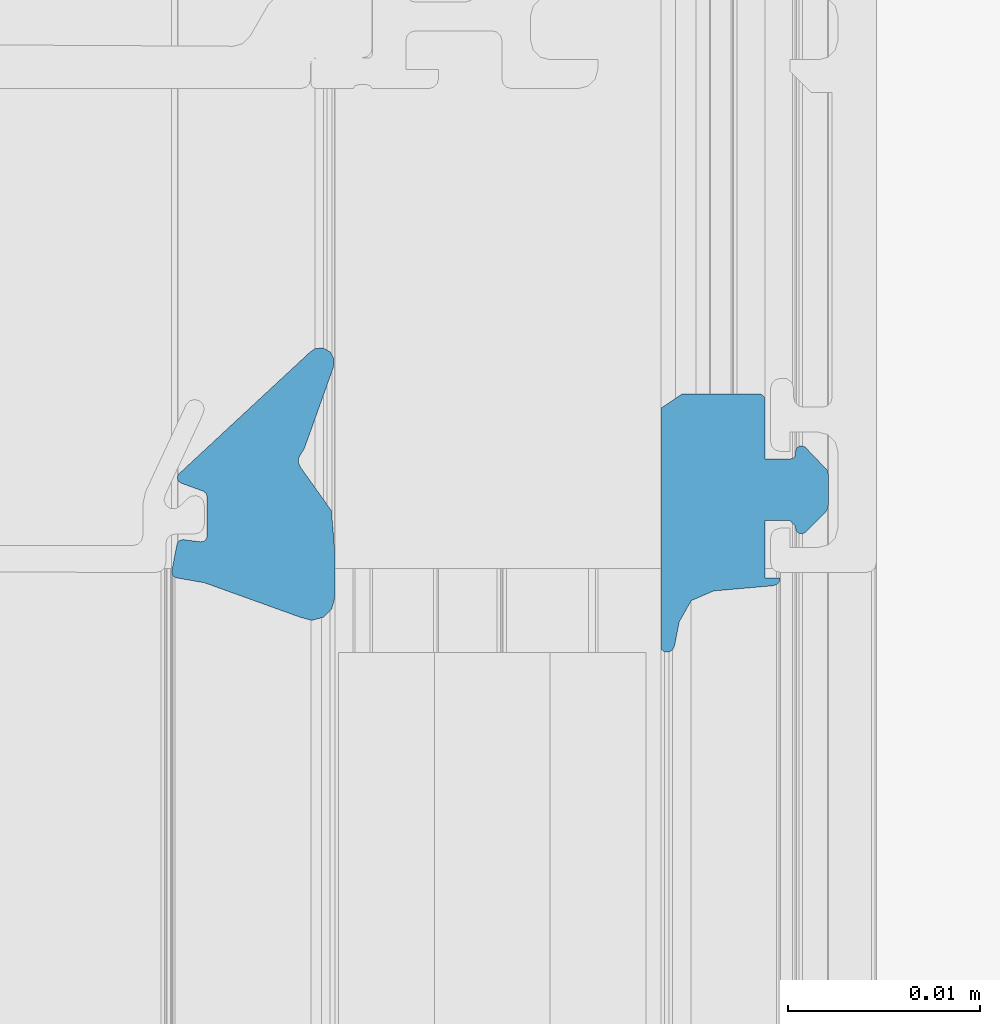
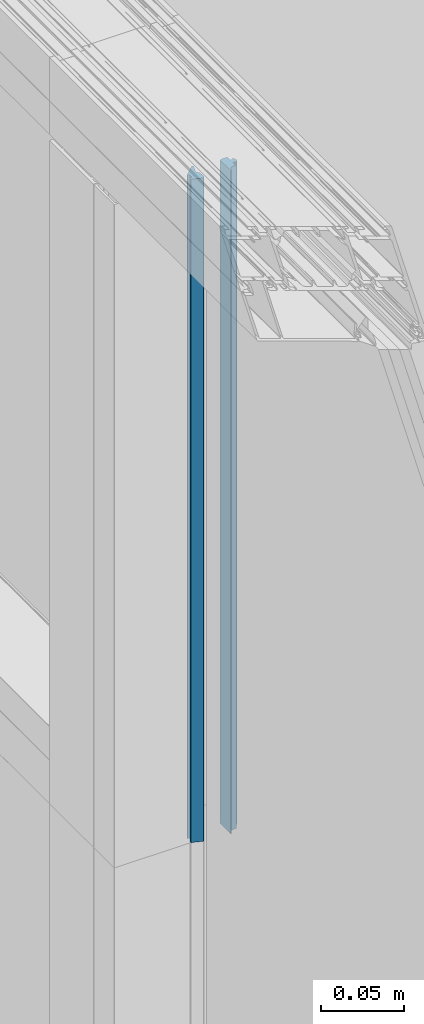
# One storey, part 50 of 62: 1 building element part, 2 elements without a shape of their own.
"""IFC2X3 building model written with IfcOpenShell, lengths in millimetres."""

from ifc_helpers import new_model, entity, si_unit, converted_unit, derived_unit, money_unit, direction, frame, origin_with_axes, place, context, subcontext, project, spatial, faceted_brep, material, type_object, element, aggregate, save


model = new_model("IFC2X3")

# Units and contexts
model_context = context("Model", 3, precision=0.01, world=origin_with_axes(), true_north=direction((0.0, 1.0)))
body_context = subcontext(model_context, "Body", "Model", "MODEL_VIEW")
ifc_project = project(units=[si_unit("LENGTHUNIT", "METRE", prefix="MILLI"), si_unit("AREAUNIT", "SQUARE_METRE"), si_unit("VOLUMEUNIT", "CUBIC_METRE"), converted_unit("PLANEANGLEUNIT", "DEGREE", entity("IfcPlaneAngleMeasure", 0.0174532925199), si_unit("PLANEANGLEUNIT", "RADIAN"), dimensions=[0, 0, 0, 0, 0, 0, 0]), si_unit("SOLIDANGLEUNIT", "STERADIAN"), money_unit("EUR"), converted_unit("TIMEUNIT", "Year", entity("IfcTimeMeasure", 31556926.0), si_unit("TIMEUNIT", "SECOND"), dimensions=[0, 0, 1, 0, 0, 0, 0]), si_unit("MASSUNIT", "GRAM", prefix="KILO"), si_unit("THERMODYNAMICTEMPERATUREUNIT", "DEGREE_CELSIUS"), si_unit("LUMINOUSINTENSITYUNIT", "LUMEN"), si_unit("ENERGYUNIT", "JOULE", prefix="MEGA"), derived_unit("THERMALCONDUCTANCEUNIT", [(si_unit("POWERUNIT", "WATT"), 1), (si_unit("LENGTHUNIT", "METRE"), -1), (si_unit("THERMODYNAMICTEMPERATUREUNIT", "KELVIN"), -1)]), derived_unit("SPECIFICHEATCAPACITYUNIT", [(si_unit("ENERGYUNIT", "JOULE"), 1), (si_unit("MASSUNIT", "GRAM", prefix="KILO"), -1), (si_unit("THERMODYNAMICTEMPERATUREUNIT", "KELVIN"), -1)]), derived_unit("MASSDENSITYUNIT", [(si_unit("MASSUNIT", "GRAM", prefix="KILO"), 1), (si_unit("VOLUMEUNIT", "CUBIC_METRE"), -1)])], contexts=[model_context])

# Site, building, storey
site_placement = place(None, origin_with_axes())
site = spatial("IfcSite", under=ifc_project, at=site_placement, Name="Puškini 31, Narva", CompositionType="ELEMENT")
building_placement = place(site_placement, origin_with_axes())
building = spatial("IfcBuilding", under=site, at=building_placement, Name="Narva Riigigümnaasium", CompositionType="ELEMENT")
storey_placement = place(building_placement, frame((0.0, 0.0, 660.0), z_axis=(0.0, 0.0, 1.0), x_axis=(1.0, 0.0, 0.0)))
storey = spatial("IfcBuildingStorey", under=building, at=storey_placement, Name="2.korrus +0.66", CompositionType="ELEMENT", Elevation=660.0)

# Curtain wall, member, building element part
curtain_wall_type = type_object("IfcCurtainWallType", Name="Curtain Wall Type", PredefinedType="NOTDEFINED")
curtain_wall_placement = place(storey_placement, frame((34855.0128096, 223200.000065, -2.45869393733e-05), z_axis=(0.0, 0.0, 1.0), x_axis=(1.0, 0.0, 0.0)))
curtain_wall = element("IfcCurtainWall", 1, at=curtain_wall_placement, inside=storey, type_object=curtain_wall_type, Name="G-SKLF-50")
member_type = type_object("IfcMemberType", Name="82 x 45", PredefinedType="MULLION")
member_placement = place(curtain_wall_placement, frame((-0.00257308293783, -599.999999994, 2400.00002459), z_axis=(0.0, 0.0, 1.0), x_axis=(4.28847155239e-06, 0.999999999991, 0.0)))
member = element("IfcMember", 2, at=member_placement, type_object=member_type, Name="G-SKLF-50-raam", ObjectType="MULLION")
aggregate(curtain_wall, [member])
ifc_material = material(Name="Membraan - Veekindel")
building_element_part_placement = place(member_placement, origin_with_axes())
building_element_part = element("IfcBuildingElementPart", 3, at=building_element_part_placement, material=ifc_material, Name="Membraan - Veekindel", context=body_context, shape_type="Brep", body=[
    faceted_brep([(-72.7204882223, -15.0100099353, 0.0), (-72.7204882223, -15.0100099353, 488.835293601), (-74.9898926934, -16.6230552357, 488.835293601), (-74.9898926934, -16.6230552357, 0.0), (-72.5011668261, -14.8999349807, 0.0), (-72.5011668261, -14.8999349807, 488.835293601), (-72.2558878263, -14.9074571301, 488.835293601), (-72.0437237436, -15.0307647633, 488.835293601), (-71.7536994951, -15.2121692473, 488.835293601), (-67.4982927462, -16.7341218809, 488.835293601), (-67.0740702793, -16.7580150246, 488.835293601), (-66.7049453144, -16.5475813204, 488.835293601), (-66.5093924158, -16.1703616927, 488.835293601), (-66.5501763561, -15.7474287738, 488.835293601), (-66.8142070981, -15.4145273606, 488.835293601), (-73.0645590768, -8.68581760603, 488.835293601), (-73.192689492, -8.61180126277, 488.835293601), (-73.3406152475, -8.60808734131, 488.835293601), (-73.4722984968, -8.67558063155, 488.835293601), (-73.5556584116, -8.79783833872, 488.835293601), (-73.9761212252, -9.95305042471, 488.835293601), (-74.0859560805, -10.096189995, 488.835293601), (-74.2580290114, -10.1504443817, 488.835293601), (-76.3123574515, -10.1504443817, 488.835293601), (-76.4731258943, -10.1037298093, 488.835293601), (-76.5838261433, -9.9781344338, 488.835293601), (-76.6099827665, -9.81277248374, 488.835293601), (-76.4957458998, -8.91024871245, 488.835293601), (-76.5142922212, -8.76250903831, 488.835293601), (-76.601588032, -8.64188392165, 488.835293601), (-76.7361285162, -8.57808865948, 488.835293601), (-78.1361285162, -8.30595622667, 488.835293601), (-78.2917480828, -8.3170330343, 488.835293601), (-78.4207620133, -8.4047573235, 488.835293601), (-78.4882789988, -8.54540440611, 488.835293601), (-78.7418652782, -10.0036443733, 488.835293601), (-80.5405112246, -15.001346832, 488.835293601), (-80.7012805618, -15.6006926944, 488.835293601), (-80.5411647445, -16.2002134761, 488.835293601), (-80.1029794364, -16.6395947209, 488.835293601), (-79.5038972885, -16.8013439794, 488.835293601), (-77.1927259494, -16.806401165, 488.835293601), (-77.1927259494, -16.806401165, 0.0), (-79.5038972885, -16.8013439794, 0.0), (-80.1029794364, -16.6395947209, 0.0), (-80.5411647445, -16.2002134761, 0.0), (-80.7012805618, -15.6006926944, 0.0), (-80.5405112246, -15.001346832, 0.0), (-78.7418652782, -10.0036443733, 0.0), (-78.4882789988, -8.54540440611, 0.0), (-78.4207620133, -8.4047573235, 0.0), (-78.2917480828, -8.3170330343, 0.0), (-78.1361285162, -8.30595622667, 0.0), (-76.7361285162, -8.57808865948, 0.0), (-76.601588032, -8.64188392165, 0.0), (-76.5142922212, -8.76250903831, 0.0), (-76.4957458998, -8.91024871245, 0.0), (-76.6099827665, -9.81277248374, 0.0), (-76.5838261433, -9.9781344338, 0.0), (-76.4731258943, -10.1037298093, 0.0), (-76.3123574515, -10.1504443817, 0.0), (-74.2580290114, -10.1504443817, 0.0), (-74.0859560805, -10.096189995, 0.0), (-73.9761212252, -9.95305042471, 0.0), (-73.5556584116, -8.79783833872, 0.0), (-73.4722984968, -8.67558063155, 0.0), (-73.3406152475, -8.60808734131, 0.0), (-73.192689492, -8.61180126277, 0.0), (-73.0645590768, -8.68581760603, 0.0), (-66.8142070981, -15.4145273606, 0.0), (-66.5501763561, -15.7474287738, 0.0), (-66.5093924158, -16.1703616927, 0.0), (-66.7049453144, -16.5475813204, 0.0), (-67.0740702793, -16.7580150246, 0.0), (-67.4982927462, -16.7341218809, 0.0), (-71.7536994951, -15.2121692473, 0.0), (-72.0437237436, -15.0307647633, 0.0), (-72.2558878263, -14.9074571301, 0.0)], [[[0, 1, 2, 3]], [[4, 5, 1, 0]], [[1, 5, 6, 7, 8, 9, 10, 11, 12, 13, 14, 15, 16, 17, 18, 19, 20, 21, 22, 23, 24, 25, 26, 27, 28, 29, 30, 31, 32, 33, 34, 35, 36, 37, 38, 39, 40, 41, 2]], [[3, 2, 41, 42]], [[0, 3, 42, 43, 44, 45, 46, 47, 48, 49, 50, 51, 52, 53, 54, 55, 56, 57, 58, 59, 60, 61, 62, 63, 64, 65, 66, 67, 68, 69, 70, 71, 72, 73, 74, 75, 76, 77, 4]], [[77, 6, 5, 4]], [[76, 7, 6, 77]], [[75, 8, 7, 76]], [[74, 9, 8, 75]], [[73, 10, 9, 74]], [[72, 11, 10, 73]], [[71, 12, 11, 72]], [[70, 13, 12, 71]], [[69, 14, 13, 70]], [[68, 15, 14, 69]], [[67, 16, 15, 68]], [[66, 17, 16, 67]], [[65, 18, 17, 66]], [[64, 19, 18, 65]], [[63, 20, 19, 64]], [[62, 21, 20, 63]], [[61, 22, 21, 62]], [[60, 23, 22, 61]], [[59, 24, 23, 60]], [[58, 25, 24, 59]], [[57, 26, 25, 58]], [[56, 27, 26, 57]], [[55, 28, 27, 56]], [[54, 29, 28, 55]], [[53, 30, 29, 54]], [[52, 31, 30, 53]], [[51, 32, 31, 52]], [[50, 33, 32, 51]], [[49, 34, 33, 50]], [[48, 35, 34, 49]], [[47, 36, 35, 48]], [[46, 37, 36, 47]], [[45, 38, 37, 46]], [[44, 39, 38, 45]], [[43, 40, 39, 44]], [[42, 41, 40, 43]]]),
    faceted_brep([(-71.6876987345, -41.3119145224, 0.0), (-71.6876987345, -41.3119145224, 488.835293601), (-72.8904310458, -42.4618935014, 488.835293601), (-72.8904310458, -42.4618935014, 0.0), (-71.6057623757, -41.1582990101, 0.0), (-71.6057623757, -41.1582990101, 488.835293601), (-71.6229356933, -40.9850466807, 488.835293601), (-71.7334350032, -40.8505059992, 488.835293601), (-71.900046, -40.799988, 488.835293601), (-72.00004, -40.799988, 488.835293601), (-72.15004, -40.7597956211, 488.835293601), (-72.2598476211, -40.649988, 488.835293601), (-72.30004, -40.499988, 488.835293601), (-72.30004, -39.200012, 488.835293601), (-71.30004, -39.2000007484, 488.835293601), (-69.2000038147, -39.2000007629, 488.835293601), (-69.0500179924, -39.159812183, 488.835293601), (-68.9402207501, -39.0500149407, 488.835293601), (-68.9000321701, -38.9000291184, 488.835293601), (-68.8997554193, -34.9006000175, 488.835293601), (-69.647137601, -33.7902637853, 488.835293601), (-82.2108941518, -33.7902637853, 488.835293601), (-82.3423779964, -33.9722990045, 488.835293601), (-82.3536959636, -34.1965683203, 488.835293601), (-82.2412066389, -34.3909158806, 488.835293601), (-82.041102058, -34.4928127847, 488.835293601), (-80.7800222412, -34.7379988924, 488.835293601), (-79.6755028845, -35.3629012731, 488.835293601), (-79.1693613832, -36.5266395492, 488.835293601), (-78.9000324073, -39.6000097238, 488.835293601), (-78.8464370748, -39.8000230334, 488.835293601), (-78.7000161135, -39.9464425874, 488.835293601), (-78.5000022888, -40.0000359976, 488.835293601), (-78.5000022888, -39.2000007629, 488.835293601), (-76.5000210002, -39.200012, 488.835293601), (-75.500021, -39.200012, 488.835293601), (-75.500021, -40.499988, 488.835293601), (-75.800021, -40.799988, 488.835293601), (-75.9000173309, -40.799988, 488.835293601), (-76.0666568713, -40.8505228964, 488.835293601), (-76.1771585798, -40.9851032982, 488.835293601), (-76.1942964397, -41.1583915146, 488.835293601), (-76.1122970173, -41.3120098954, 488.835293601), (-75.0716106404, -42.353428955, 488.835293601), (-74.9093558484, -42.461906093, 488.835293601), (-74.717932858, -42.5, 488.835293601), (-73.0818844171, -42.5, 488.835293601), (-73.0818844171, -42.5, 0.0), (-74.717932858, -42.5, 0.0), (-74.9093558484, -42.461906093, 0.0), (-75.0716106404, -42.353428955, 0.0), (-76.1122970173, -41.3120098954, 0.0), (-76.1942964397, -41.1583915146, 0.0), (-76.1771585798, -40.9851032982, 0.0), (-76.0666568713, -40.8505228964, 0.0), (-75.9000173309, -40.799988, 0.0), (-75.800021, -40.799988, 0.0), (-75.500021, -40.499988, 0.0), (-75.500021, -39.200012, 0.0), (-76.5000210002, -39.200012, 0.0), (-78.5000022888, -39.2000007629, 0.0), (-78.5000022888, -40.0000359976, 0.0), (-78.7000161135, -39.9464425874, 0.0), (-78.8464370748, -39.8000230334, 0.0), (-78.9000324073, -39.6000097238, 0.0), (-79.1693613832, -36.5266395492, 0.0), (-79.6755028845, -35.3629012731, 0.0), (-80.7800222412, -34.7379988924, 0.0), (-82.041102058, -34.4928127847, 0.0), (-82.2412066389, -34.3909158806, 0.0), (-82.3536959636, -34.1965683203, 0.0), (-82.3423779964, -33.9722990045, 0.0), (-82.2108941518, -33.7902637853, 0.0), (-69.647137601, -33.7902637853, 0.0), (-68.8997554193, -34.9006000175, 0.0), (-68.9000321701, -38.9000291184, 0.0), (-68.9402207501, -39.0500149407, 0.0), (-69.0500179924, -39.159812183, 0.0), (-69.2000038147, -39.2000007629, 0.0), (-71.30004, -39.2000007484, 0.0), (-72.30004, -39.200012, 0.0), (-72.30004, -40.499988, 0.0), (-72.2598476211, -40.649988, 0.0), (-72.15004, -40.7597956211, 0.0), (-72.00004, -40.799988, 0.0), (-71.900046, -40.799988, 0.0), (-71.7334350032, -40.8505059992, 0.0), (-71.6229356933, -40.9850466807, 0.0)], [[[0, 1, 2, 3]], [[4, 5, 1, 0]], [[1, 5, 6, 7, 8, 9, 10, 11, 12, 13, 14, 15, 16, 17, 18, 19, 20, 21, 22, 23, 24, 25, 26, 27, 28, 29, 30, 31, 32, 33, 34, 35, 36, 37, 38, 39, 40, 41, 42, 43, 44, 45, 46, 2]], [[3, 2, 46, 47]], [[0, 3, 47, 48, 49, 50, 51, 52, 53, 54, 55, 56, 57, 58, 59, 60, 61, 62, 63, 64, 65, 66, 67, 68, 69, 70, 71, 72, 73, 74, 75, 76, 77, 78, 79, 80, 81, 82, 83, 84, 85, 86, 87, 4]], [[87, 6, 5, 4]], [[86, 7, 6, 87]], [[85, 8, 7, 86]], [[84, 9, 8, 85]], [[83, 10, 9, 84]], [[82, 11, 10, 83]], [[81, 12, 11, 82]], [[80, 13, 12, 81]], [[79, 14, 13, 80]], [[78, 15, 14, 79]], [[77, 16, 15, 78]], [[76, 17, 16, 77]], [[75, 18, 17, 76]], [[74, 19, 18, 75]], [[73, 20, 19, 74]], [[72, 21, 20, 73]], [[71, 22, 21, 72]], [[70, 23, 22, 71]], [[69, 24, 23, 70]], [[68, 25, 24, 69]], [[67, 26, 25, 68]], [[66, 27, 26, 67]], [[65, 28, 27, 66]], [[64, 29, 28, 65]], [[63, 30, 29, 64]], [[62, 31, 30, 63]], [[61, 32, 31, 62]], [[60, 33, 32, 61]], [[59, 34, 33, 60]], [[58, 35, 34, 59]], [[57, 36, 35, 58]], [[56, 37, 36, 57]], [[55, 38, 37, 56]], [[54, 39, 38, 55]], [[53, 40, 39, 54]], [[52, 41, 40, 53]], [[51, 42, 41, 52]], [[50, 43, 42, 51]], [[49, 44, 43, 50]], [[48, 45, 44, 49]], [[47, 46, 45, 48]]]),
])
aggregate(member, [building_element_part])

save(model, "model.ifc")
